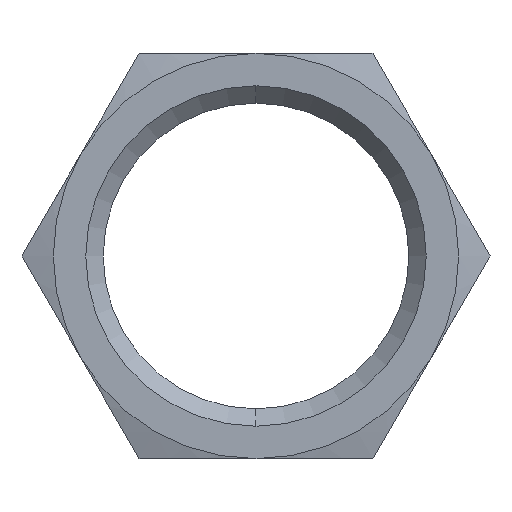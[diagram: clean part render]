
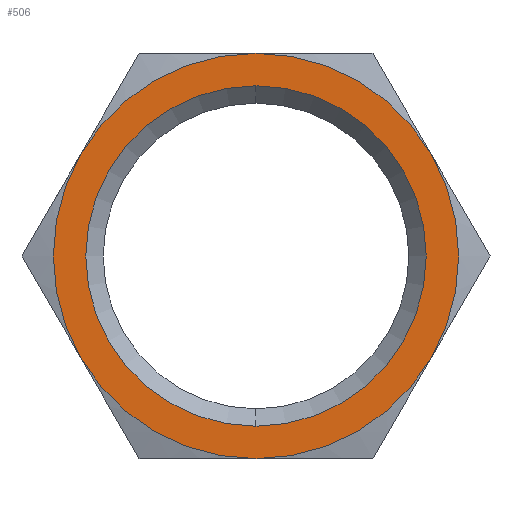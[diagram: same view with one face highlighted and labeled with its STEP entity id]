
A CAD part, left-side view. The second image highlights one B-rep face of the part: STEP entity #506.
In plain terms, the highlighted planar face has unit normal (-1, 0, 0).
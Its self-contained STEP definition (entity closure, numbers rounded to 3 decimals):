
#1 = CARTESIAN_POINT ( 'NONE',  ( 0., 0., 11.905 ) ) ;
#45 = CARTESIAN_POINT ( 'NONE',  ( 0., 0., 10. ) ) ;
#46 = DIRECTION ( 'NONE',  ( 0., 0., 1. ) ) ;
#47 = DIRECTION ( 'NONE',  ( -1., 0., 0. ) ) ;
#48 = CARTESIAN_POINT ( 'NONE',  ( 0., 0., 0. ) ) ;
#49 = AXIS2_PLACEMENT_3D ( 'NONE', #48, #47, #46 ) ;
#50 = CIRCLE ( 'NONE', #49, 10. ) ;
#51 = CARTESIAN_POINT ( 'NONE',  ( 0., 0., -10. ) ) ;
#56 = DIRECTION ( 'NONE',  ( 1., 0., 0. ) ) ;
#57 = CARTESIAN_POINT ( 'NONE',  ( 0., 0., 0. ) ) ;
#58 = AXIS2_PLACEMENT_3D ( 'NONE', #57, #56, #147 ) ;
#59 = CIRCLE ( 'NONE', #58, 11.905 ) ;
#61 = DIRECTION ( 'NONE',  ( 0., 0., 1. ) ) ;
#62 = DIRECTION ( 'NONE',  ( -1., 0., 0. ) ) ;
#63 = CARTESIAN_POINT ( 'NONE',  ( 0., 0., 0. ) ) ;
#64 = AXIS2_PLACEMENT_3D ( 'NONE', #63, #62, #61 ) ;
#65 = CIRCLE ( 'NONE', #64, 11.905 ) ;
#66 = DIRECTION ( 'NONE',  ( 0., 0., -1. ) ) ;
#67 = DIRECTION ( 'NONE',  ( 1., 0., 0. ) ) ;
#68 = CARTESIAN_POINT ( 'NONE',  ( 0., 0., 0. ) ) ;
#69 = AXIS2_PLACEMENT_3D ( 'NONE', #68, #67, #66 ) ;
#70 = CIRCLE ( 'NONE', #69, 11.905 ) ;
#71 = DIRECTION ( 'NONE',  ( 0., 0., -1. ) ) ;
#72 = DIRECTION ( 'NONE',  ( 1., 0., 0. ) ) ;
#73 = CARTESIAN_POINT ( 'NONE',  ( 0., 0., 0. ) ) ;
#74 = AXIS2_PLACEMENT_3D ( 'NONE', #73, #72, #71 ) ;
#75 = CIRCLE ( 'NONE', #74, 11.905 ) ;
#76 = DIRECTION ( 'NONE',  ( 0., 0., -1. ) ) ;
#77 = DIRECTION ( 'NONE',  ( 1., 0., 0. ) ) ;
#78 = CARTESIAN_POINT ( 'NONE',  ( 0., 0., 0. ) ) ;
#79 = AXIS2_PLACEMENT_3D ( 'NONE', #78, #77, #76 ) ;
#80 = CIRCLE ( 'NONE', #79, 11.905 ) ;
#81 = DIRECTION ( 'NONE',  ( 0., 0., -1. ) ) ;
#82 = DIRECTION ( 'NONE',  ( 1., 0., 0. ) ) ;
#83 = CARTESIAN_POINT ( 'NONE',  ( 0., 0., 0. ) ) ;
#84 = AXIS2_PLACEMENT_3D ( 'NONE', #83, #82, #81 ) ;
#85 = CIRCLE ( 'NONE', #84, 11.905 ) ;
#121 = CARTESIAN_POINT ( 'NONE',  ( 0., 0., -28.431 ) ) ;
#122 = AXIS2_PLACEMENT_3D ( 'NONE', #121, #228, #227 ) ;
#129 = PLANE ( 'NONE',  #122 ) ;
#130 = FACE_OUTER_BOUND ( 'NONE', #471, .T. ) ;
#132 = FACE_BOUND ( 'NONE', #507, .T. ) ;
#147 = DIRECTION ( 'NONE',  ( 0., 0., -1. ) ) ;
#221 = DIRECTION ( 'NONE',  ( 0., 0., 1. ) ) ;
#222 = DIRECTION ( 'NONE',  ( -1., 0., 0. ) ) ;
#223 = CARTESIAN_POINT ( 'NONE',  ( 0., 0., 0. ) ) ;
#224 = AXIS2_PLACEMENT_3D ( 'NONE', #223, #222, #221 ) ;
#225 = CIRCLE ( 'NONE', #224, 10. ) ;
#227 = DIRECTION ( 'NONE',  ( 0., 0., -1. ) ) ;
#228 = DIRECTION ( 'NONE',  ( 1., 0., 0. ) ) ;
#349 = VERTEX_POINT ( 'NONE', #750 ) ;
#366 = VERTEX_POINT ( 'NONE', #830 ) ;
#390 = VERTEX_POINT ( 'NONE', #712 ) ;
#406 = VERTEX_POINT ( 'NONE', #654 ) ;
#417 = VERTEX_POINT ( 'NONE', #785 ) ;
#431 = VERTEX_POINT ( 'NONE', #1 ) ;
#456 = ORIENTED_EDGE ( 'NONE', *, *, #457, .F. ) ;
#457 = EDGE_CURVE ( 'NONE', #349, #366, #85, .T. ) ;
#458 = ORIENTED_EDGE ( 'NONE', *, *, #459, .F. ) ;
#459 = EDGE_CURVE ( 'NONE', #417, #349, #80, .T. ) ;
#460 = ORIENTED_EDGE ( 'NONE', *, *, #461, .F. ) ;
#461 = EDGE_CURVE ( 'NONE', #390, #417, #75, .T. ) ;
#462 = ORIENTED_EDGE ( 'NONE', *, *, #463, .F. ) ;
#463 = EDGE_CURVE ( 'NONE', #431, #390, #70, .T. ) ;
#464 = ORIENTED_EDGE ( 'NONE', *, *, #465, .T. ) ;
#465 = EDGE_CURVE ( 'NONE', #431, #406, #65, .T. ) ;
#466 = ORIENTED_EDGE ( 'NONE', *, *, #467, .F. ) ;
#467 = EDGE_CURVE ( 'NONE', #366, #406, #59, .T. ) ;
#470 = ORIENTED_EDGE ( 'NONE', *, *, #590, .F. ) ;
#471 = EDGE_LOOP ( 'NONE', ( #456, #458, #460, #462, #464, #466 ) ) ;
#506 = ADVANCED_FACE ( 'NONE', ( #132, #130 ), #129, .F. ) ;
#507 = EDGE_LOOP ( 'NONE', ( #508, #470 ) ) ;
#508 = ORIENTED_EDGE ( 'NONE', *, *, #509, .F. ) ;
#509 = EDGE_CURVE ( 'NONE', #591, #588, #225, .T. ) ;
#588 = VERTEX_POINT ( 'NONE', #51 ) ;
#590 = EDGE_CURVE ( 'NONE', #588, #591, #50, .T. ) ;
#591 = VERTEX_POINT ( 'NONE', #45 ) ;
#654 = CARTESIAN_POINT ( 'NONE',  ( 0., 10.31, 5.952 ) ) ;
#712 = CARTESIAN_POINT ( 'NONE',  ( 0., -10.31, 5.952 ) ) ;
#750 = CARTESIAN_POINT ( 'NONE',  ( 0., 0., -11.905 ) ) ;
#785 = CARTESIAN_POINT ( 'NONE',  ( 0., -10.31, -5.953 ) ) ;
#830 = CARTESIAN_POINT ( 'NONE',  ( 0., 10.31, -5.952 ) ) ;
